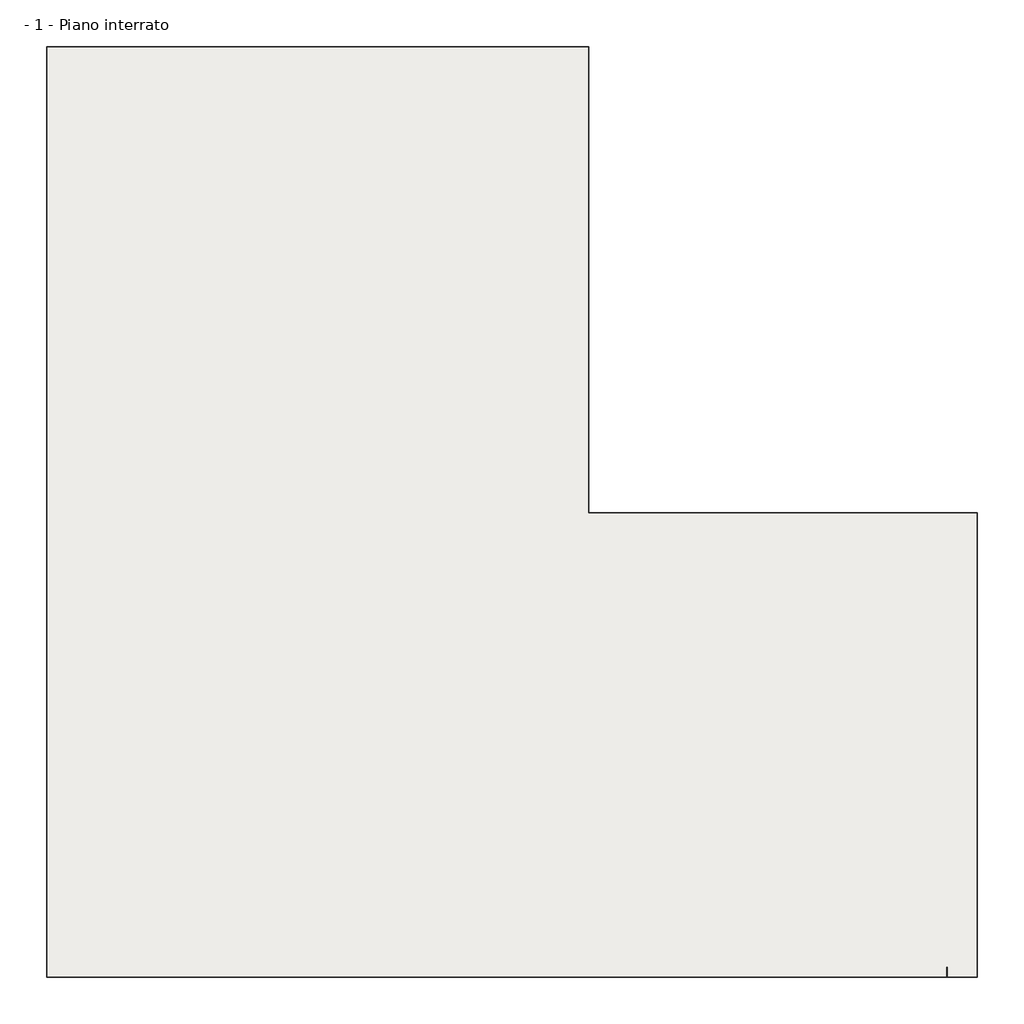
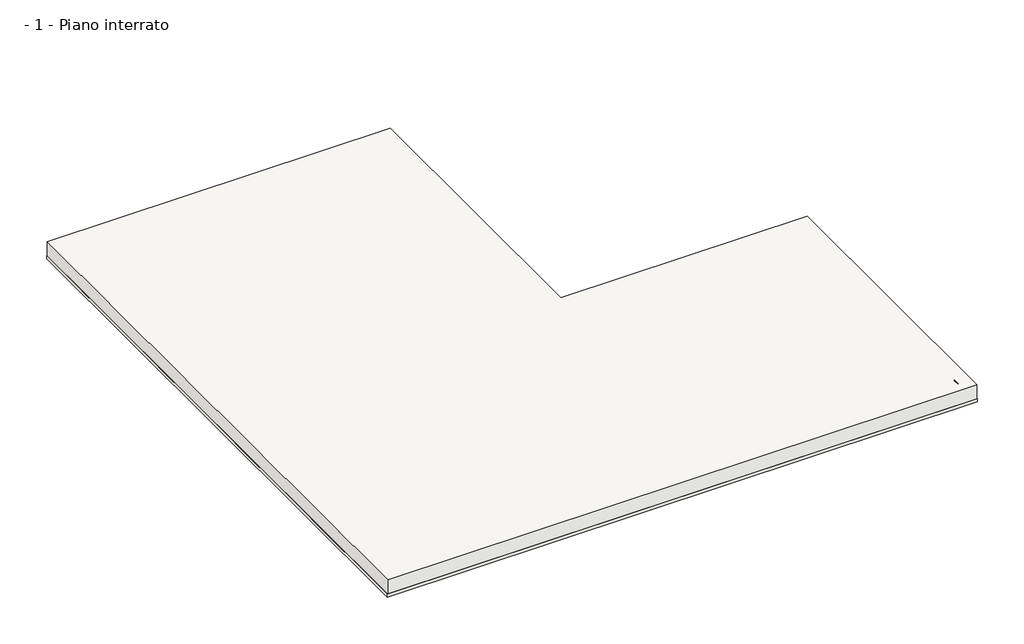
# One storey: 2 proxies, 2 slabs.
"""IFC4 building model written with IfcOpenShell, lengths in millimetres."""

from ifc_helpers import new_model, si_unit, frame, origin, place, context, project, spatial, polyline, outline, extrude, transform, mapped, element, save
from components import generic_models_3b7ed561

model = new_model("IFC4")

# Units and contexts
model_context = context("Model", 3, world=origin())
ifc_project = project(units=[si_unit("LENGTHUNIT", "METRE", prefix="MILLI")], contexts=[model_context])

# Site, building, storey
site = spatial("IfcSite", under=ifc_project)
building = spatial("IfcBuilding", under=site)
storey = spatial("IfcBuildingStorey", under=building, Name="- 1 - Piano interrato", Elevation=-2500.0)

# Proxies
placement = place(None, origin())
generic_models_shape = generic_models_3b7ed561(model_context)
element("IfcBuildingElementProxy", 1, Name="ITA-Connettori su parete verticale sigillati con AKTI-VO 201 : ITA-Connettori su parete verticale sigillati con AKTI-VO 201", ObjectType="ITA-Connettori su parete verticale sigillati con AKTI-VO 201 : ITA-Connettori su parete verticale sigillati con AKTI-VO 201", at=placement, inside=storey, context=model_context, shape_type="MappedRepresentation", body=[
    mapped(generic_models_shape, transform((1122.4910633, -15630.7761472, -2255.1972589), x_axis=(-1.0, 0.0, 0.0), y_axis=(0.0, 0.0, 1.0), z_axis=(0.0, 1.0, 0.0))),
])
element("IfcBuildingElementProxy", 2, Name="ITA-Connettori su struttura orizzontale sigillati con AKTI-VO 201 : ITA-Connettori su struttura orizzontale sigillati con AKTI-VO 201", ObjectType="ITA-Connettori su struttura orizzontale sigillati con AKTI-VO 201 : ITA-Connettori su struttura orizzontale sigillati con AKTI-VO 201", at=placement, inside=storey, context=model_context, shape_type="MappedRepresentation", body=[
    mapped(generic_models_shape, transform((1122.4910633, -14710.7761472, -3000.0), x_axis=(-1.0, 0.0, 0.0), y_axis=(0.0, -1.0, 0.0), z_axis=(0.0, 0.0, 1.0))),
])

# Slabs
element("IfcSlab", 3, ObjectType="Magrone - 10 cm", at=placement, inside=storey, context=model_context, shape_type="SweptSolid", body=[
    extrude(outline(polyline([(-17857.5089367, 3978.003934), (-6426.5891533, 3978.003934), (-6426.5891533, -5845.9559577), (1762.3707384, -5845.9559577), (1762.3707384, -15645.7761472), (-17857.5089367, -15645.7761472), (-17857.5089367, 3978.003934)])), frame((0.0, 0.0, -3100.0), z_axis=(0.0, 0.0, 1.0), x_axis=(1.0, 0.0, 0.0)), (0.0, 0.0, 1.0), 100.0),
])
element("IfcSlab", 4, ObjectType="Platea - 50 cm", at=placement, inside=storey, context=model_context, shape_type="SweptSolid", body=[
    extrude(outline(polyline([(1747.3707384, -15630.7761472), (-17842.5089367, -15630.7761472), (-17842.5089367, 3963.003934), (-6441.5891533, 3963.003934), (-6441.5891533, -5860.9559577), (1747.3707384, -5860.9559577), (1747.3707384, -15630.7761472)])), frame((0.0, 0.0, -3000.0), z_axis=(0.0, 0.0, 1.0), x_axis=(1.0, 0.0, 0.0)), (0.0, 0.0, 1.0), 500.0),
])

save(model, "model.ifc")
